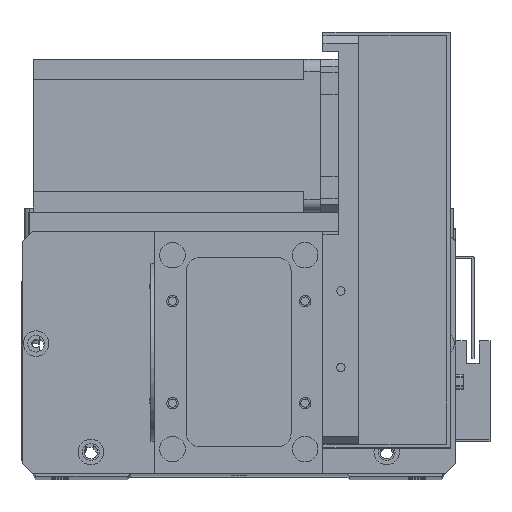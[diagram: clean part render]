
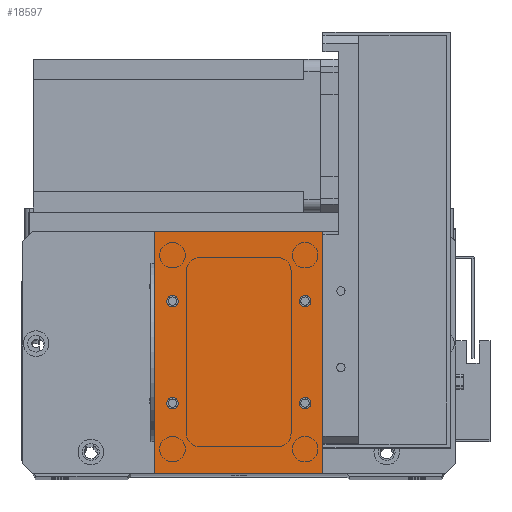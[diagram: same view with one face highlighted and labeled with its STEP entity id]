
A CAD part, top view. The second image highlights one B-rep face of the part: STEP entity #18597.
In plain terms, the highlighted planar face has unit normal (0, 0, 1).
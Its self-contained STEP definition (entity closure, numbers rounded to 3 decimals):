
#274 = VERTEX_POINT ( 'NONE', #23152 ) ;
#407 = DIRECTION ( 'NONE',  ( 1., 0., 0. ) ) ;
#538 = EDGE_LOOP ( 'NONE', ( #11692, #5053 ) ) ;
#876 = DIRECTION ( 'NONE',  ( -1., 0., 0. ) ) ;
#916 = VECTOR ( 'NONE', #2852, 1000. ) ;
#1503 = CIRCLE ( 'NONE', #16936, 2.25 ) ;
#1698 = DIRECTION ( 'NONE',  ( -1., 0., 0. ) ) ;
#2189 = CARTESIAN_POINT ( 'NONE',  ( 66., 0., 2. ) ) ;
#2376 = VERTEX_POINT ( 'NONE', #19794 ) ;
#2852 = DIRECTION ( 'NONE',  ( 0., -1., 0. ) ) ;
#3496 = EDGE_CURVE ( 'NONE', #6727, #23631, #13291, .T. ) ;
#3527 = CARTESIAN_POINT ( 'NONE',  ( 7., 27.5, 2. ) ) ;
#3636 = CARTESIAN_POINT ( 'NONE',  ( 7., 27.5, 2. ) ) ;
#3747 = AXIS2_PLACEMENT_3D ( 'NONE', #29537, #15031, #407 ) ;
#3760 = DIRECTION ( 'NONE',  ( 0., 0., 1. ) ) ;
#5053 = ORIENTED_EDGE ( 'NONE', *, *, #12571, .F. ) ;
#5326 = CARTESIAN_POINT ( 'NONE',  ( 0., 0., 2. ) ) ;
#5449 = DIRECTION ( 'NONE',  ( 1., 0., 0. ) ) ;
#5717 = DIRECTION ( 'NONE',  ( 0., 0., 1. ) ) ;
#5791 = AXIS2_PLACEMENT_3D ( 'NONE', #10305, #10144, #10336 ) ;
#5835 = CARTESIAN_POINT ( 'NONE',  ( 59., 27.5, 2. ) ) ;
#5860 = ORIENTED_EDGE ( 'NONE', *, *, #15057, .T. ) ;
#5955 = DIRECTION ( 'NONE',  ( 1., 0., 0. ) ) ;
#6000 = EDGE_CURVE ( 'NONE', #2376, #14184, #24209, .T. ) ;
#6089 = DIRECTION ( 'NONE',  ( 1., 0., 0. ) ) ;
#6175 = VECTOR ( 'NONE', #7192, 1000. ) ;
#6311 = DIRECTION ( 'NONE',  ( 0., 0., 1. ) ) ;
#6365 = EDGE_CURVE ( 'NONE', #29009, #24111, #22295, .T. ) ;
#6727 = VERTEX_POINT ( 'NONE', #27446 ) ;
#6930 = CIRCLE ( 'NONE', #12733, 2.25 ) ;
#7108 = EDGE_CURVE ( 'NONE', #18557, #9864, #7397, .T. ) ;
#7192 = DIRECTION ( 'NONE',  ( 1., 0., 0. ) ) ;
#7266 = EDGE_CURVE ( 'NONE', #274, #29504, #9283, .T. ) ;
#7397 = LINE ( 'NONE', #5326, #916 ) ;
#7523 = CARTESIAN_POINT ( 'NONE',  ( 61.25, 67.5, 2. ) ) ;
#7728 = CARTESIAN_POINT ( 'NONE',  ( 56.75, 27.5, 2. ) ) ;
#8122 = PLANE ( 'NONE',  #21080 ) ;
#8134 = ORIENTED_EDGE ( 'NONE', *, *, #9446, .F. ) ;
#8985 = EDGE_LOOP ( 'NONE', ( #19001, #8134 ) ) ;
#9283 = CIRCLE ( 'NONE', #15267, 2.25 ) ;
#9446 = EDGE_CURVE ( 'NONE', #29504, #274, #1503, .T. ) ;
#9864 = VERTEX_POINT ( 'NONE', #20227 ) ;
#10109 = AXIS2_PLACEMENT_3D ( 'NONE', #5835, #5717, #5449 ) ;
#10144 = DIRECTION ( 'NONE',  ( 0., 0., 1. ) ) ;
#10305 = CARTESIAN_POINT ( 'NONE',  ( 7., 67.5, 2. ) ) ;
#10336 = DIRECTION ( 'NONE',  ( 1., 0., 0. ) ) ;
#10955 = FACE_OUTER_BOUND ( 'NONE', #11483, .T. ) ;
#10992 = CARTESIAN_POINT ( 'NONE',  ( 4.75, 67.5, 2. ) ) ;
#11474 = DIRECTION ( 'NONE',  ( 0., 0., 1. ) ) ;
#11483 = EDGE_LOOP ( 'NONE', ( #19986, #5860, #14173, #19907 ) ) ;
#11692 = ORIENTED_EDGE ( 'NONE', *, *, #3496, .F. ) ;
#11718 = EDGE_CURVE ( 'NONE', #14184, #2376, #17365, .T. ) ;
#12479 = FACE_BOUND ( 'NONE', #23381, .T. ) ;
#12571 = EDGE_CURVE ( 'NONE', #23631, #6727, #21100, .T. ) ;
#12733 = AXIS2_PLACEMENT_3D ( 'NONE', #20888, #6311, #23375 ) ;
#13291 = CIRCLE ( 'NONE', #5791, 2.25 ) ;
#14173 = ORIENTED_EDGE ( 'NONE', *, *, #26780, .T. ) ;
#14184 = VERTEX_POINT ( 'NONE', #7728 ) ;
#15031 = DIRECTION ( 'NONE',  ( 0., 0., 1. ) ) ;
#15057 = EDGE_CURVE ( 'NONE', #9864, #19397, #24824, .T. ) ;
#15267 = AXIS2_PLACEMENT_3D ( 'NONE', #3527, #20553, #5955 ) ;
#15469 = DIRECTION ( 'NONE',  ( 0., 0., -1. ) ) ;
#15598 = EDGE_LOOP ( 'NONE', ( #27390, #20365 ) ) ;
#16788 = DIRECTION ( 'NONE',  ( 0., 1., 0. ) ) ;
#16936 = AXIS2_PLACEMENT_3D ( 'NONE', #3636, #20682, #6089 ) ;
#17089 = CARTESIAN_POINT ( 'NONE',  ( 4.75, 27.5, 2. ) ) ;
#17296 = VECTOR ( 'NONE', #1698, 1000. ) ;
#17365 = CIRCLE ( 'NONE', #3747, 2.25 ) ;
#17424 = FACE_BOUND ( 'NONE', #538, .T. ) ;
#17638 = VECTOR ( 'NONE', #16788, 1000. ) ;
#17728 = CARTESIAN_POINT ( 'NONE',  ( 0., 95., 2. ) ) ;
#18147 = ORIENTED_EDGE ( 'NONE', *, *, #6000, .F. ) ;
#18209 = FACE_BOUND ( 'NONE', #15598, .T. ) ;
#18388 = CARTESIAN_POINT ( 'NONE',  ( 7., 67.5, 2. ) ) ;
#18557 = VERTEX_POINT ( 'NONE', #17728 ) ;
#18597 = ADVANCED_FACE ( 'NONE', ( #17424, #18209, #12479, #23888, #10955 ), #8122, .F. ) ;
#19001 = ORIENTED_EDGE ( 'NONE', *, *, #7266, .F. ) ;
#19319 = AXIS2_PLACEMENT_3D ( 'NONE', #25997, #11474, #28434 ) ;
#19397 = VERTEX_POINT ( 'NONE', #20834 ) ;
#19794 = CARTESIAN_POINT ( 'NONE',  ( 61.25, 27.5, 2. ) ) ;
#19905 = CARTESIAN_POINT ( 'NONE',  ( 56.75, 67.5, 2. ) ) ;
#19907 = ORIENTED_EDGE ( 'NONE', *, *, #26042, .T. ) ;
#19986 = ORIENTED_EDGE ( 'NONE', *, *, #7108, .T. ) ;
#20227 = CARTESIAN_POINT ( 'NONE',  ( 0., 0., 2. ) ) ;
#20365 = ORIENTED_EDGE ( 'NONE', *, *, #27182, .F. ) ;
#20516 = CARTESIAN_POINT ( 'NONE',  ( 66., 95., 2. ) ) ;
#20553 = DIRECTION ( 'NONE',  ( 0., 0., 1. ) ) ;
#20682 = DIRECTION ( 'NONE',  ( 0., 0., 1. ) ) ;
#20792 = DIRECTION ( 'NONE',  ( 1., 0., 0. ) ) ;
#20834 = CARTESIAN_POINT ( 'NONE',  ( 66., 0., 2. ) ) ;
#20888 = CARTESIAN_POINT ( 'NONE',  ( 59., 67.5, 2. ) ) ;
#21080 = AXIS2_PLACEMENT_3D ( 'NONE', #27542, #15469, #876 ) ;
#21100 = CIRCLE ( 'NONE', #21936, 2.25 ) ;
#21936 = AXIS2_PLACEMENT_3D ( 'NONE', #18388, #3760, #20792 ) ;
#22295 = CIRCLE ( 'NONE', #19319, 2.25 ) ;
#23152 = CARTESIAN_POINT ( 'NONE',  ( 9.25, 27.5, 2. ) ) ;
#23375 = DIRECTION ( 'NONE',  ( 1., 0., 0. ) ) ;
#23381 = EDGE_LOOP ( 'NONE', ( #18147, #31515 ) ) ;
#23631 = VERTEX_POINT ( 'NONE', #10992 ) ;
#23888 = FACE_BOUND ( 'NONE', #8985, .T. ) ;
#24111 = VERTEX_POINT ( 'NONE', #19905 ) ;
#24209 = CIRCLE ( 'NONE', #10109, 2.25 ) ;
#24824 = LINE ( 'NONE', #26529, #6175 ) ;
#25997 = CARTESIAN_POINT ( 'NONE',  ( 59., 67.5, 2. ) ) ;
#26042 = EDGE_CURVE ( 'NONE', #30898, #18557, #30218, .T. ) ;
#26529 = CARTESIAN_POINT ( 'NONE',  ( 0., 0., 2. ) ) ;
#26780 = EDGE_CURVE ( 'NONE', #19397, #30898, #30548, .T. ) ;
#27182 = EDGE_CURVE ( 'NONE', #24111, #29009, #6930, .T. ) ;
#27390 = ORIENTED_EDGE ( 'NONE', *, *, #6365, .F. ) ;
#27446 = CARTESIAN_POINT ( 'NONE',  ( 9.25, 67.5, 2. ) ) ;
#27542 = CARTESIAN_POINT ( 'NONE',  ( 0., 0., 2. ) ) ;
#28434 = DIRECTION ( 'NONE',  ( 1., 0., 0. ) ) ;
#28492 = CARTESIAN_POINT ( 'NONE',  ( 0., 95., 2. ) ) ;
#29009 = VERTEX_POINT ( 'NONE', #7523 ) ;
#29504 = VERTEX_POINT ( 'NONE', #17089 ) ;
#29537 = CARTESIAN_POINT ( 'NONE',  ( 59., 27.5, 2. ) ) ;
#30218 = LINE ( 'NONE', #28492, #17296 ) ;
#30548 = LINE ( 'NONE', #2189, #17638 ) ;
#30898 = VERTEX_POINT ( 'NONE', #20516 ) ;
#31515 = ORIENTED_EDGE ( 'NONE', *, *, #11718, .F. ) ;
